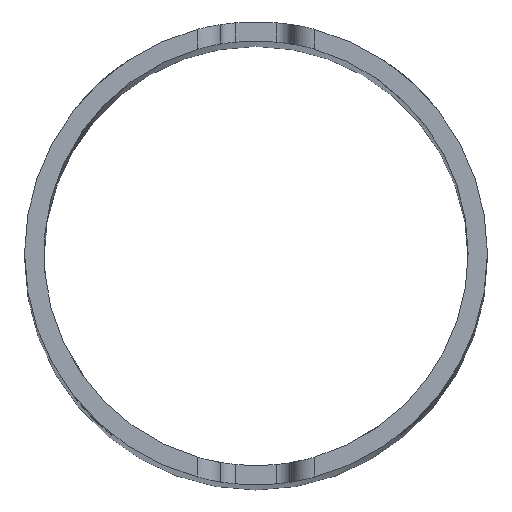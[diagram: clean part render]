
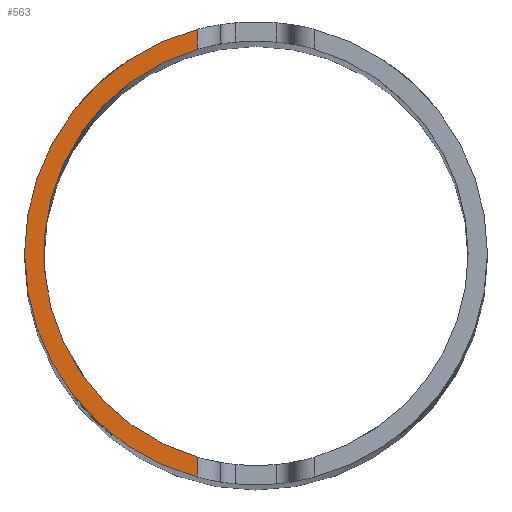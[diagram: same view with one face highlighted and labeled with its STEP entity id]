
A CAD part, top view. The second image highlights one B-rep face of the part: STEP entity #563.
In plain terms, the highlighted planar face has unit normal (0, 0, 1).
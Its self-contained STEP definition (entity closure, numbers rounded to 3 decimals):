
#122 = EDGE_CURVE ( 'NONE', #1553, #1894, #184, .T. ) ;
#162 = VERTEX_POINT ( 'NONE', #907 ) ;
#184 = LINE ( 'NONE', #1972, #1354 ) ;
#194 = CIRCLE ( 'NONE', #1756, 30. ) ;
#294 = CARTESIAN_POINT ( 'NONE',  ( -7.6, 29.645, 0. ) ) ;
#312 = ORIENTED_EDGE ( 'NONE', *, *, #1886, .T. ) ;
#428 = ORIENTED_EDGE ( 'NONE', *, *, #516, .F. ) ;
#450 = EDGE_LOOP ( 'NONE', ( #428, #312, #1870, #1734 ) ) ;
#516 = EDGE_CURVE ( 'NONE', #162, #1894, #1666, .T. ) ;
#554 = DIRECTION ( 'NONE',  ( 0., 1., 0. ) ) ;
#563 = ADVANCED_FACE ( 'NONE', ( #902 ), #1207, .T. ) ;
#609 = DIRECTION ( 'NONE',  ( 1., 0., 0. ) ) ;
#756 = AXIS2_PLACEMENT_3D ( 'NONE', #1050, #2016, #2027 ) ;
#860 = AXIS2_PLACEMENT_3D ( 'NONE', #2049, #1411, #609 ) ;
#902 = FACE_OUTER_BOUND ( 'NONE', #450, .T. ) ;
#907 = CARTESIAN_POINT ( 'NONE',  ( -7.6, 26.429, 0. ) ) ;
#1050 = CARTESIAN_POINT ( 'NONE',  ( 0., 0., 0. ) ) ;
#1114 = EDGE_CURVE ( 'NONE', #1519, #1553, #194, .T. ) ;
#1206 = CARTESIAN_POINT ( 'NONE',  ( -7.6, 29.021, 0. ) ) ;
#1207 = PLANE ( 'NONE',  #860 ) ;
#1234 = CARTESIAN_POINT ( 'NONE',  ( 0., 0., 0. ) ) ;
#1257 = DIRECTION ( 'NONE',  ( 0., 0., 1. ) ) ;
#1272 = CARTESIAN_POINT ( 'NONE',  ( -7.6, -26.429, 0. ) ) ;
#1342 = CARTESIAN_POINT ( 'NONE',  ( -7.6, -29.021, 0. ) ) ;
#1354 = VECTOR ( 'NONE', #554, 1000. ) ;
#1411 = DIRECTION ( 'NONE',  ( 0., 0., 1. ) ) ;
#1519 = VERTEX_POINT ( 'NONE', #1206 ) ;
#1553 = VERTEX_POINT ( 'NONE', #1342 ) ;
#1666 = CIRCLE ( 'NONE', #756, 27.5 ) ;
#1734 = ORIENTED_EDGE ( 'NONE', *, *, #122, .T. ) ;
#1749 = LINE ( 'NONE', #294, #1936 ) ;
#1756 = AXIS2_PLACEMENT_3D ( 'NONE', #1234, #1257, #1905 ) ;
#1870 = ORIENTED_EDGE ( 'NONE', *, *, #1114, .T. ) ;
#1886 = EDGE_CURVE ( 'NONE', #162, #1519, #1749, .T. ) ;
#1894 = VERTEX_POINT ( 'NONE', #1272 ) ;
#1905 = DIRECTION ( 'NONE',  ( 1., 0., 0. ) ) ;
#1936 = VECTOR ( 'NONE', #2081, 1000. ) ;
#1972 = CARTESIAN_POINT ( 'NONE',  ( -7.6, -27.113, 0. ) ) ;
#2016 = DIRECTION ( 'NONE',  ( 0., 0., 1. ) ) ;
#2027 = DIRECTION ( 'NONE',  ( 1., 0., 0. ) ) ;
#2049 = CARTESIAN_POINT ( 'NONE',  ( 0., 0., 0. ) ) ;
#2081 = DIRECTION ( 'NONE',  ( 0., 1., 0. ) ) ;
